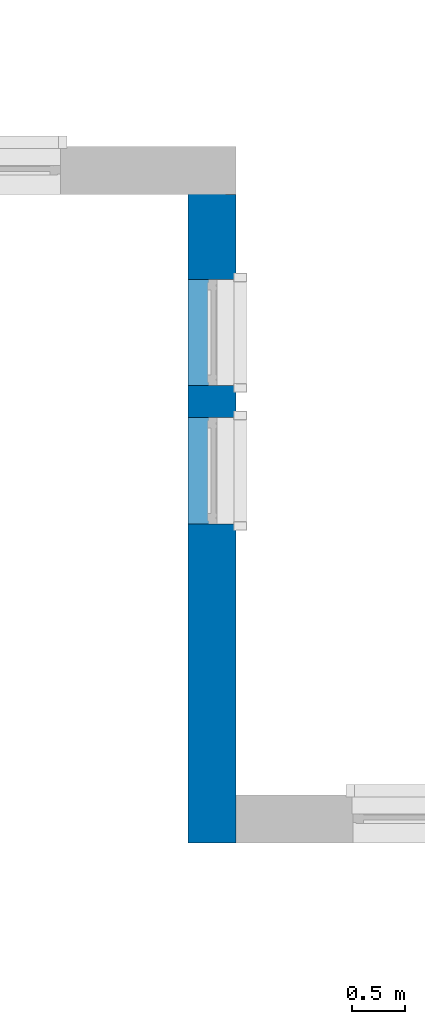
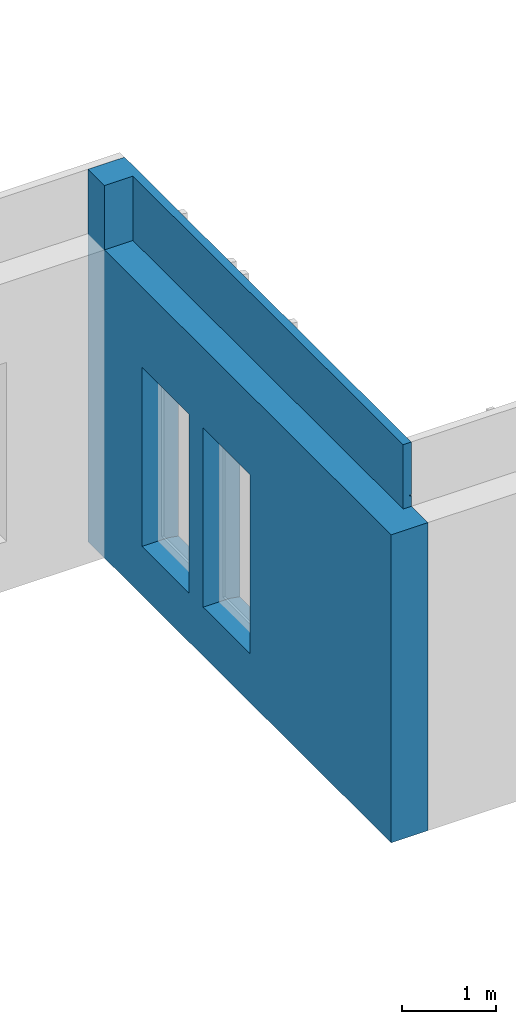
# One storey, part 14 of 33: 1 wall, 4 openings.
"""IFC2X3 building model written with IfcOpenShell, lengths in millimetres."""

from ifc_helpers import new_model, entity, si_unit, converted_unit, derived_unit, direction, frame, frame_2d, origin, place, context, subcontext, project, spatial, polyline, rectangle, extrude, clip, bounded_halfspace, faceted_brep, material, layer, layer_set, layer_usage, type_object, element, save


model = new_model("IFC2X3")

# Units and contexts
model_context = context("Model", 3, precision=0.01, world=origin(), true_north=direction((6.12303176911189e-17, 1.0)))
body_context = subcontext(model_context, "Body", "Model", "MODEL_VIEW")
ifc_project = project(units=[si_unit("LENGTHUNIT", "METRE", prefix="MILLI"), si_unit("AREAUNIT", "SQUARE_METRE"), si_unit("VOLUMEUNIT", "CUBIC_METRE"), converted_unit("PLANEANGLEUNIT", "DEGREE", entity("IfcRatioMeasure", 0.0174532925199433), si_unit("PLANEANGLEUNIT", "RADIAN"), dimensions=[0, 0, 0, 0, 0, 0, 0]), si_unit("MASSUNIT", "GRAM", prefix="KILO"), derived_unit("MASSDENSITYUNIT", [(si_unit("MASSUNIT", "GRAM", prefix="KILO"), 1), (si_unit("LENGTHUNIT", "METRE"), -3)]), si_unit("TIMEUNIT", "SECOND"), si_unit("FREQUENCYUNIT", "HERTZ"), si_unit("THERMODYNAMICTEMPERATUREUNIT", "DEGREE_CELSIUS"), derived_unit("THERMALTRANSMITTANCEUNIT", [(si_unit("MASSUNIT", "GRAM", prefix="KILO"), 1), (si_unit("THERMODYNAMICTEMPERATUREUNIT", "KELVIN"), -1), (si_unit("TIMEUNIT", "SECOND"), -3)]), derived_unit("VOLUMETRICFLOWRATEUNIT", [(si_unit("LENGTHUNIT", "METRE"), 3), (si_unit("TIMEUNIT", "SECOND"), -1)]), si_unit("ELECTRICCURRENTUNIT", "AMPERE"), si_unit("ELECTRICVOLTAGEUNIT", "VOLT"), si_unit("POWERUNIT", "WATT"), si_unit("FORCEUNIT", "NEWTON", prefix="KILO"), si_unit("ILLUMINANCEUNIT", "LUX"), si_unit("LUMINOUSFLUXUNIT", "LUMEN"), si_unit("LUMINOUSINTENSITYUNIT", "CANDELA"), derived_unit("USERDEFINED", [(si_unit("MASSUNIT", "GRAM", prefix="KILO"), -1), (si_unit("LENGTHUNIT", "METRE"), -2), (si_unit("TIMEUNIT", "SECOND"), 3), (si_unit("LUMINOUSFLUXUNIT", "LUMEN"), 1)]), derived_unit("LINEARVELOCITYUNIT", [(si_unit("LENGTHUNIT", "METRE"), 1), (si_unit("TIMEUNIT", "SECOND"), -1)]), si_unit("PRESSUREUNIT", "PASCAL"), derived_unit("USERDEFINED", [(si_unit("LENGTHUNIT", "METRE"), -2), (si_unit("MASSUNIT", "GRAM", prefix="KILO"), 1), (si_unit("TIMEUNIT", "SECOND"), -2)])], contexts=[model_context])

# Site, building, storey
site_placement = place(None, origin())
site = spatial("IfcSite", under=ifc_project, at=site_placement, Name="Default", CompositionType="ELEMENT")
building_placement = place(site_placement, origin())
building = spatial("IfcBuilding", under=site, at=building_placement, CompositionType="ELEMENT")
storey_placement = place(building_placement, frame((0.0, 0.0, 4000.0)))
storey = spatial("IfcBuildingStorey", under=building, at=storey_placement, Name="2. KORRUS", CompositionType="ELEMENT", Elevation=4000.0)

# Wall, openings
ifc_material_1 = material(Name="RECKLI 1 173 THUR by Polantis 2016-toon4")
ifc_layer_1 = layer(ifc_material_1, 100.0)
ifc_material_2 = material(Name="Soojusisolatsioon EPS")
ifc_layer_2 = layer(ifc_material_2, 200.0)
ifc_material_3 = material(Name="r/b")
ifc_layer_3 = layer(ifc_material_3, 150.0)
ifc_layer_set = layer_set([ifc_layer_1, ifc_layer_2, ifc_layer_3], Name="Basic Wall:VS-1_toon-a")
ifc_layer_usage = layer_usage(ifc_layer_set, "AXIS2", "NEGATIVE", 225.0)
wall_type = type_object("IfcWallType", Name="Basic Wall:VS-1_toon-a", PredefinedType="STANDARD", material=ifc_layer_set)
wall_placement = place(storey_placement, frame((9425.0, 27950.0, -135.0), z_axis=(0.0, 0.0, 1.0), x_axis=(0.0, -1.0, 0.0)))
wall = element("IfcWallStandardCase", 1, at=wall_placement, inside=storey, type_object=wall_type, material=ifc_layer_usage, Name="Basic Wall:VS-1_toon-a", ObjectType="Basic Wall:VS-1_toon-a", context=body_context, shape_type="Clipping", body=[
    clip(clip(extrude(rectangle(XDim=6449.94821928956, YDim=449.999999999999, at=frame_2d((3224.97410964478, -2.8421709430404e-13), x_axis=(-1.0, 0.0))), origin(), (0.0, 0.0, 1.0), 4835.0), bounded_halfspace(frame((350.0, -225.0, 4000.0), z_axis=(0.0, 0.0, 1.0), x_axis=(0.0, 1.0, 0.0)), False, frame((350.0, -225.0, 4000.0)), polyline([(0.0, 0.0), (6099.94821928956, 0.0), (6099.94821928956, 450.0), (5749.94821928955, 450.0), (5749.94821928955, 350.0), (0.0, 350.0), (0.0, 0.0)]))), bounded_halfspace(frame((0.0, 225.0, 4000.0), z_axis=(0.0, 0.0, -1.0), x_axis=(1.0, 0.0, 0.0)), False, frame((0.0, 225.0, 4000.0)), polyline([(0.0, 0.0), (0.0, -100.0), (350.0, -100.0), (350.0, 0.0), (0.0, 0.0)]))),
])
opening_1_placement = place(wall_placement, frame((28400.0, -9875.0, 4.0)))
element("IfcOpeningElement", 2, at=opening_1_placement, cuts=wall, Name="Basic Wall:VS-1_toon-a", ObjectType="Opening", context=body_context, shape_type="Brep", body=[
    faceted_brep([(-20.0, 11850.0, 16.0), (0.0, 11850.0, 16.0), (0.0, 11850.0, 0.0), (-20.0, 11850.0, 0.0), (-20.0, 4260.0, 16.0), (-20.0, 4260.0, 0.0), (0.0, 4260.0, 0.0), (0.0, 4260.0, 16.0)], [[[0, 1, 2, 3]], [[4, 5, 6, 7]], [[1, 0, 4, 7]], [[2, 1, 7, 6]], [[3, 2, 6, 5]], [[0, 3, 5, 4]]]),
    faceted_brep([(-28480.0, 20.0, 16.0), (-28480.0, 20.0, 0.0), (-28500.0, 0.0, 0.0), (-28500.0, 0.0, 16.0), (-23740.0, 20.0, 16.0), (-23740.0, 0.0, 16.0), (-23740.0, 0.0, 0.0), (-23740.0, 20.0, 0.0)], [[[0, 1, 2, 3]], [[4, 5, 6, 7]], [[1, 0, 4, 7]], [[2, 1, 7, 6]], [[3, 2, 6, 5]], [[0, 3, 5, 4]]]),
    faceted_brep([(-22380.0517807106, 10080.0, 16.0), (-22400.0517807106, 10100.0, 16.0), (-22400.0517807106, 10100.0, 0.0), (-22380.0517807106, 10080.0, 0.0), (-22380.0517807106, 15330.3475962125, 16.0), (-22380.0517807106, 15330.3475962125, 0.0), (-22400.0517807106, 15330.3475962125, 0.0), (-22400.0517807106, 15330.3475962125, 16.0)], [[[0, 1, 2, 3]], [[4, 5, 6, 7]], [[1, 0, 4, 7]], [[2, 1, 7, 6]], [[3, 2, 6, 5]], [[0, 3, 5, 4]]]),
    faceted_brep([(-28480.0, 20.0, 16.0), (-28500.0, 0.0, 16.0), (-28500.0, 0.0, 0.0), (-28480.0, 20.0, 0.0), (-28480.0, 4360.0, 16.0), (-28480.0, 4360.0, 0.0), (-28500.0, 4360.0, 0.0), (-28500.0, 4360.0, 16.0)], [[[0, 1, 2, 3]], [[4, 5, 6, 7]], [[1, 0, 4, 7]], [[2, 1, 7, 6]], [[3, 2, 6, 5]], [[0, 3, 5, 4]]]),
    faceted_brep([(-20.0, 40380.0, 16.0), (0.0, 40400.0, 16.0), (0.0, 40400.0, 0.0), (-20.0, 40380.0, 0.0), (-20.0, 35250.0, 16.0), (-20.0, 35250.0, 0.0), (0.0, 35250.0, 0.0), (0.0, 35250.0, 16.0)], [[[0, 1, 2, 3]], [[4, 5, 6, 7]], [[1, 0, 4, 7]], [[2, 1, 7, 6]], [[3, 2, 6, 5]], [[0, 3, 5, 4]]]),
    faceted_brep([(-22380.0517807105, 34420.1035702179, 16.0), (-22400.0517807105, 34420.1035702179, 16.0), (-22400.0517807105, 34420.1035702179, 0.0), (-22380.0517807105, 34420.1035702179, 0.0), (-22380.0517807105, 40380.0, 16.0), (-22380.0517807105, 40380.0, 0.0), (-22400.0517807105, 40400.0, 0.0), (-22400.0517807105, 40400.0, 16.0)], [[[0, 1, 2, 3]], [[4, 5, 6, 7]], [[1, 0, 4, 7]], [[2, 1, 7, 6]], [[3, 2, 6, 5]], [[0, 3, 5, 4]]]),
    faceted_brep([(-22380.0517807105, 29113.2161487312, 16.0), (-22400.0517807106, 29113.2161487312, 16.0), (-22400.0517807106, 29113.2161487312, 0.0), (-22380.0517807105, 29113.2161487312, 0.0), (-22380.0517807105, 34420.1035702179, 16.0), (-22380.0517807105, 34420.1035702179, 0.0), (-22400.0517807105, 34420.1035702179, 0.0), (-22400.0517807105, 34420.1035702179, 16.0)], [[[0, 1, 2, 3]], [[4, 5, 6, 7]], [[1, 0, 4, 7]], [[2, 1, 7, 6]], [[3, 2, 6, 5]], [[0, 3, 5, 4]]]),
    faceted_brep([(-28480.0, 10080.0, 16.0), (-28500.0, 10100.0, 16.0), (-28500.0, 10100.0, 0.0), (-28480.0, 10080.0, 0.0), (-22380.0517807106, 10080.0, 16.0), (-22380.0517807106, 10080.0, 0.0), (-22400.0517807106, 10100.0, 0.0), (-22400.0517807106, 10100.0, 16.0)], [[[0, 1, 2, 3]], [[4, 5, 6, 7]], [[1, 0, 4, 7]], [[2, 1, 7, 6]], [[3, 2, 6, 5]], [[0, 3, 5, 4]]]),
    faceted_brep([(-20.0, 4260.0, 16.0), (0.0, 4260.0, 16.0), (0.0, 4260.0, 0.0), (-20.0, 4260.0, 0.0), (-20.0, 0.0, 16.0), (-20.0, 0.0, 0.0), (0.0, 0.0, 0.0), (0.0, 0.0, 16.0)], [[[0, 1, 2, 3]], [[4, 5, 6, 7]], [[1, 0, 4, 7]], [[2, 1, 7, 6]], [[3, 2, 6, 5]], [[0, 3, 5, 4]]]),
    faceted_brep([(-4865.0, 40380.0, 16.0), (-4865.0, 40400.0, 16.0), (-4865.0, 40400.0, 0.0), (-4865.0, 40380.0, 0.0), (-20.0, 40380.0, 16.0), (-20.0, 40380.0, 0.0), (0.0, 40400.0, 0.0), (0.0, 40400.0, 16.0)], [[[0, 1, 2, 3]], [[4, 5, 6, 7]], [[1, 0, 4, 7]], [[2, 1, 7, 6]], [[3, 2, 6, 5]], [[0, 3, 5, 4]]]),
    faceted_brep([(-9093.33000000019, 40380.0, 16.0), (-9093.33000000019, 40400.0, 16.0), (-9093.33000000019, 40400.0, 0.0), (-9093.33000000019, 40380.0, 0.0), (-4865.0, 40380.0, 16.0), (-4865.0, 40380.0, 0.0), (-4865.0, 40400.0, 0.0), (-4865.0, 40400.0, 16.0)], [[[0, 1, 2, 3]], [[4, 5, 6, 7]], [[1, 0, 4, 7]], [[2, 1, 7, 6]], [[3, 2, 6, 5]], [[0, 3, 5, 4]]]),
    faceted_brep([(-13210.0, 40380.0, 16.0), (-13210.0, 40400.0, 16.0), (-13210.0, 40400.0, 0.0), (-13210.0, 40380.0, 0.0), (-9093.33000000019, 40380.0, 16.0), (-9093.33000000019, 40380.0, 0.0), (-9093.33000000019, 40400.0, 0.0), (-9093.33000000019, 40400.0, 16.0)], [[[0, 1, 2, 3]], [[4, 5, 6, 7]], [[1, 0, 4, 7]], [[2, 1, 7, 6]], [[3, 2, 6, 5]], [[0, 3, 5, 4]]]),
    faceted_brep([(-16240.0, 40380.0, 16.0), (-16240.0, 40400.0, 16.0), (-16240.0, 40400.0, 0.0), (-16240.0, 40380.0, 0.0), (-13210.0, 40380.0, 16.0), (-13210.0, 40380.0, 0.0), (-13210.0, 40400.0, 0.0), (-13210.0, 40400.0, 16.0)], [[[0, 1, 2, 3]], [[4, 5, 6, 7]], [[1, 0, 4, 7]], [[2, 1, 7, 6]], [[3, 2, 6, 5]], [[0, 3, 5, 4]]]),
    faceted_brep([(-22380.0517807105, 40380.0, 16.0), (-22400.0517807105, 40400.0, 16.0), (-22400.0517807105, 40400.0, 0.0), (-22380.0517807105, 40380.0, 0.0), (-16240.0, 40380.0, 16.0), (-16240.0, 40380.0, 0.0), (-16240.0, 40400.0, 0.0), (-16240.0, 40400.0, 16.0)], [[[0, 1, 2, 3]], [[4, 5, 6, 7]], [[1, 0, 4, 7]], [[2, 1, 7, 6]], [[3, 2, 6, 5]], [[0, 3, 5, 4]]]),
    faceted_brep([(-22380.0517807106, 22535.0, 16.0), (-22400.0517807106, 22535.0, 16.0), (-22400.0517807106, 22535.0, 0.0), (-22380.0517807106, 22535.0, 0.0), (-22380.0517807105, 29113.2161487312, 16.0), (-22380.0517807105, 29113.2161487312, 0.0), (-22400.0517807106, 29113.2161487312, 0.0), (-22400.0517807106, 29113.2161487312, 16.0)], [[[0, 1, 2, 3]], [[4, 5, 6, 7]], [[1, 0, 4, 7]], [[2, 1, 7, 6]], [[3, 2, 6, 5]], [[0, 3, 5, 4]]]),
    faceted_brep([(-22380.0517807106, 18703.3528910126, 16.0), (-22400.0517807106, 18703.3528910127, 16.0), (-22400.0517807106, 18703.3528910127, 0.0), (-22380.0517807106, 18703.3528910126, 0.0), (-22380.0517807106, 22535.0, 16.0), (-22380.0517807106, 22535.0, 0.0), (-22400.0517807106, 22535.0, 0.0), (-22400.0517807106, 22535.0, 16.0)], [[[0, 1, 2, 3]], [[4, 5, 6, 7]], [[1, 0, 4, 7]], [[2, 1, 7, 6]], [[3, 2, 6, 5]], [[0, 3, 5, 4]]]),
    faceted_brep([(-22380.0517807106, 15330.3475962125, 16.0), (-22400.0517807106, 15330.3475962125, 16.0), (-22400.0517807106, 15330.3475962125, 0.0), (-22380.0517807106, 15330.3475962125, 0.0), (-22380.0517807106, 18703.3528910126, 16.0), (-22380.0517807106, 18703.3528910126, 0.0), (-22400.0517807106, 18703.3528910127, 0.0), (-22400.0517807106, 18703.3528910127, 16.0)], [[[0, 1, 2, 3]], [[4, 5, 6, 7]], [[1, 0, 4, 7]], [[2, 1, 7, 6]], [[3, 2, 6, 5]], [[0, 3, 5, 4]]]),
    faceted_brep([(-28480.0, 4360.0, 16.0), (-28500.0, 4360.0, 16.0), (-28500.0, 4360.0, 0.0), (-28480.0, 4360.0, 0.0), (-28480.0, 10080.0, 16.0), (-28480.0, 10080.0, 0.0), (-28500.0, 10100.0, 0.0), (-28500.0, 10100.0, 16.0)], [[[0, 1, 2, 3]], [[4, 5, 6, 7]], [[1, 0, 4, 7]], [[2, 1, 7, 6]], [[3, 2, 6, 5]], [[0, 3, 5, 4]]]),
    faceted_brep([(-23740.0, 20.0, 16.0), (-23740.0, 20.0, 0.0), (-23740.0, 0.0, 0.0), (-23740.0, 0.0, 16.0), (-16890.0006972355, 20.0, 16.0), (-16890.0006972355, 0.0, 16.0), (-16890.0006972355, 0.0, 0.0), (-16890.0006972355, 20.0, 0.0)], [[[0, 1, 2, 3]], [[4, 5, 6, 7]], [[1, 0, 4, 7]], [[2, 1, 7, 6]], [[3, 2, 6, 5]], [[0, 3, 5, 4]]]),
    faceted_brep([(-16890.0006972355, 20.0, 16.0), (-16890.0006972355, 20.0, 0.0), (-16890.0006972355, 0.0, 0.0), (-16890.0006972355, 0.0, 16.0), (-13460.0, 20.0, 16.0), (-13460.0, 0.0, 16.0), (-13460.0, 0.0, 0.0), (-13460.0, 20.0, 0.0)], [[[0, 1, 2, 3]], [[4, 5, 6, 7]], [[1, 0, 4, 7]], [[2, 1, 7, 6]], [[3, 2, 6, 5]], [[0, 3, 5, 4]]]),
])
opening_2_placement = place(wall_placement, origin())
element("IfcOpeningElement", 3, at=opening_2_placement, cuts=wall, Name="Basic Wall:VS-1_toon-a", ObjectType="Recess", context=body_context, shape_type="SweptSolid", body=[
    extrude(rectangle(XDim=15.9999999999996, YDim=20.0, at=frame_2d((-3.37507799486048e-14, 5.40900657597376e-13), x_axis=(0.0, 1.0))), frame((28390.0, -5615.0, 4147.0), z_axis=(0.0, 1.0, 0.0), x_axis=(1.0, 0.0, 0.0)), (0.0, 0.0, 1.0), 7590.0),
    extrude(rectangle(XDim=15.9999999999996, YDim=4660.0, at=frame_2d((-2.27373675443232e-12, 5.40900657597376e-13), x_axis=(0.0, 1.0))), frame((2330.0, -9875.0, 4147.0), z_axis=(0.0, 1.0, 0.0), x_axis=(1.0, 0.0, 0.0)), (0.0, 0.0, 1.0), 20.0000000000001),
    extrude(rectangle(XDim=15.9999999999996, YDim=19.9999999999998, at=frame_2d((5.40900657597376e-13, -2.16626716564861e-12), x_axis=(1.0, 0.0))), frame((6009.94821928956, 225.0, 4147.0), z_axis=(0.0, 1.0, 0.0), x_axis=(0.0, 0.0, -1.0)), (0.0, 0.0, 1.0), 5230.3475962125),
    extrude(rectangle(XDim=15.9999999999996, YDim=19.9999999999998, at=frame_2d((5.40900657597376e-13, -2.16626716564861e-12), x_axis=(1.0, 0.0))), frame((-90.0, -9875.0, 4147.0), z_axis=(0.0, 1.0, 0.0), x_axis=(0.0, 0.0, -1.0)), (0.0, 0.0, 1.0), 4360.0),
    extrude(rectangle(XDim=15.9999999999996, YDim=20.0, at=frame_2d((-3.37507799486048e-14, -5.40900657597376e-13), x_axis=(0.0, 1.0))), frame((28390.0, 25375.0, 4147.0), z_axis=(0.0, 1.0, 0.0), x_axis=(1.0, 0.0, 0.0)), (0.0, 0.0, 1.0), 5050.0),
    extrude(rectangle(XDim=15.9999999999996, YDim=19.9999999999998, at=frame_2d((5.40900657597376e-13, -2.16626716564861e-12), x_axis=(1.0, 0.0))), frame((6009.9482192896, 24545.1035702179, 4147.0), z_axis=(0.0, 1.0, 0.0), x_axis=(0.0, 0.0, -1.0)), (0.0, 0.0, 1.0), 5979.89642978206),
    extrude(rectangle(XDim=15.9999999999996, YDim=19.9999999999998, at=frame_2d((5.40900657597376e-13, -2.16626716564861e-12), x_axis=(1.0, 0.0))), frame((6009.94821928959, 19238.2161487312, 4147.0), z_axis=(0.0, 1.0, 0.0), x_axis=(0.0, 0.0, -1.0)), (0.0, 0.0, 1.0), 5306.88742148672),
    extrude(rectangle(XDim=15.9999999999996, YDim=6099.94821928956, at=frame_2d((0.0, 0.0), x_axis=(0.0, 1.0))), frame((3049.97410964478, 205.0, 4147.0), z_axis=(0.0, 1.0, 0.0), x_axis=(1.0, 0.0, 0.0)), (0.0, 0.0, 1.0), 19.9999999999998),
    extrude(rectangle(XDim=15.9999999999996, YDim=20.0, at=frame_2d((-3.37507799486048e-14, 5.40900657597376e-13), x_axis=(0.0, 1.0))), frame((28390.0, -9775.0, 4147.0), z_axis=(0.0, 1.0, 0.0), x_axis=(1.0, 0.0, 0.0)), (0.0, 0.0, 1.0), 4160.00000000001),
    extrude(rectangle(XDim=15.9999999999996, YDim=4865.0, at=frame_2d((0.0, 5.40900657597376e-13), x_axis=(0.0, 1.0))), frame((25967.5000000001, 30505.0, 4147.0), z_axis=(0.0, 1.0, 0.0), x_axis=(1.0, 0.0, 0.0)), (0.0, 0.0, 1.0), 20.0000000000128),
    extrude(rectangle(XDim=15.9999999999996, YDim=4228.33000000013, at=frame_2d((0.0, 0.0), x_axis=(0.0, 1.0))), frame((21420.835, 30505.0, 4147.0), z_axis=(0.0, 1.0, 0.0), x_axis=(1.0, 0.0, 0.0)), (0.0, 0.0, 1.0), 20.0000000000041),
    extrude(rectangle(XDim=15.9999999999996, YDim=4236.66999997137, at=frame_2d((1.13686837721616e-12, 0.0), x_axis=(0.0, 1.0))), frame((17188.3350000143, 30505.0, 4147.0), z_axis=(0.0, 1.0, 0.0), x_axis=(1.0, 0.0, 0.0)), (0.0, 0.0, 1.0), 19.9999999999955),
    extrude(rectangle(XDim=15.9999999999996, YDim=2910.00000002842, at=frame_2d((2.1600499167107e-12, 5.40900657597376e-13), x_axis=(0.0, 1.0))), frame((13615.0, 30505.0, 4147.0), z_axis=(0.0, 1.0, 0.0), x_axis=(1.0, 0.0, 0.0)), (0.0, 0.0, 1.0), 20.0000000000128),
    extrude(rectangle(XDim=15.9999999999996, YDim=6060.05178071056, at=frame_2d((0.0, 0.0), x_axis=(0.0, 1.0))), frame((9129.97410964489, 30505.0, 4147.0), z_axis=(0.0, 1.0, 0.0), x_axis=(1.0, 0.0, 0.0)), (0.0, 0.0, 1.0), 19.9999999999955),
    extrude(rectangle(XDim=15.9999999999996, YDim=19.9999999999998, at=frame_2d((5.40900657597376e-13, -2.16626716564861e-12), x_axis=(1.0, 0.0))), frame((6009.94821928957, 8828.35289101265, 4147.0), z_axis=(0.0, 1.0, 0.0), x_axis=(0.0, 0.0, -1.0)), (0.0, 0.0, 1.0), 3831.64710898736),
    extrude(rectangle(XDim=15.9999999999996, YDim=19.9999999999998, at=frame_2d((5.40900657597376e-13, -2.16626716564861e-12), x_axis=(1.0, 0.0))), frame((6009.94821928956, 5455.3475962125, 4147.0), z_axis=(0.0, 1.0, 0.0), x_axis=(0.0, 0.0, -1.0)), (0.0, 0.0, 1.0), 3373.00529480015),
    extrude(rectangle(XDim=15.9999999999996, YDim=19.9999999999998, at=frame_2d((5.40900657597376e-13, 2.16626716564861e-12), x_axis=(1.0, 0.0))), frame((-90.0, -5515.0, 4147.0), z_axis=(0.0, 1.0, 0.0), x_axis=(0.0, 0.0, -1.0)), (0.0, 0.0, 1.0), 5739.99999999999),
    extrude(rectangle(XDim=15.9999999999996, YDim=6849.99930276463, at=frame_2d((1.13686837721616e-12, 5.40900657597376e-13), x_axis=(0.0, 1.0))), frame((8084.99965138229, -9875.0, 4147.0), z_axis=(0.0, 1.0, 0.0), x_axis=(1.0, 0.0, 0.0)), (0.0, 0.0, 1.0), 20.0),
    extrude(rectangle(XDim=15.9999999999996, YDim=3430.00069726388, at=frame_2d((1.02318153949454e-12, 5.40900657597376e-13), x_axis=(0.0, 1.0))), frame((13224.9996513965, -9875.0, 4147.0), z_axis=(0.0, 1.0, 0.0), x_axis=(1.0, 0.0, 0.0)), (0.0, 0.0, 1.0), 20.0000000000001),
    extrude(rectangle(XDim=15.9999999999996, YDim=19.9999999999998, at=frame_2d((5.40900657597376e-13, -2.16626716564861e-12), x_axis=(1.0, 0.0))), frame((6009.94821928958, 12660.0, 4147.0), z_axis=(0.0, 1.0, 0.0), x_axis=(0.0, 0.0, -1.0)), (0.0, 0.0, 1.0), 6578.21614873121),
    extrude(rectangle(XDim=15.9999999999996, YDim=20.0, at=frame_2d((-3.37507799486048e-14, 5.40900657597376e-13), x_axis=(0.0, 1.0))), frame((28390.0, 1975.0, 4147.0), z_axis=(0.0, 1.0, 0.0), x_axis=(1.0, 0.0, 0.0)), (0.0, 0.0, 1.0), 4110.00000000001),
    extrude(rectangle(XDim=15.9999999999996, YDim=20.0, at=frame_2d((-3.37507799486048e-14, 5.40900657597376e-13), x_axis=(0.0, 1.0))), frame((28390.0, 6085.0, 4147.0), z_axis=(0.0, 1.0, 0.0), x_axis=(1.0, 0.0, 0.0)), (0.0, 0.0, 1.0), 4600.0),
    extrude(rectangle(XDim=15.9999999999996, YDim=20.0, at=frame_2d((3.37507799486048e-14, 5.40900657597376e-13), x_axis=(0.0, 1.0))), frame((28390.0, 10685.0, 4147.0), z_axis=(0.0, 1.0, 0.0), x_axis=(1.0, 0.0, 0.0)), (0.0, 0.0, 1.0), 4600.0),
    extrude(rectangle(XDim=15.9999999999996, YDim=20.0, at=frame_2d((3.37507799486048e-14, 5.40900657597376e-13), x_axis=(0.0, 1.0))), frame((28390.0, 15285.0, 4147.0), z_axis=(0.0, 1.0, 0.0), x_axis=(1.0, 0.0, 0.0)), (0.0, 0.0, 1.0), 5299.99999999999),
    extrude(rectangle(XDim=15.9999999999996, YDim=20.0, at=frame_2d((-3.37507799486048e-14, 5.40900657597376e-13), x_axis=(0.0, 1.0))), frame((28390.0, 20585.0, 4147.0), z_axis=(0.0, 1.0, 0.0), x_axis=(1.0, 0.0, 0.0)), (0.0, 0.0, 1.0), 4790.0),
    extrude(rectangle(XDim=15.9999999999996, YDim=4724.85920481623, at=frame_2d((6.82121026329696e-13, 5.40900657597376e-13), x_axis=(0.0, 1.0))), frame((17302.4296024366, -9875.0, 4147.0), z_axis=(0.0, 1.0, 0.0), x_axis=(1.0, 0.0, 0.0)), (0.0, 0.0, 1.0), 20.0000000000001),
    extrude(rectangle(XDim=15.9999999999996, YDim=8735.1407951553, at=frame_2d((0.0, 5.40900657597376e-13), x_axis=(0.0, 1.0))), frame((24032.4296024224, -9875.0, 4147.0), z_axis=(0.0, 1.0, 0.0), x_axis=(1.0, 0.0, 0.0)), (0.0, 0.0, 1.0), 20.0),
])
opening_3_placement = place(wall_placement, frame((2149.99836987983, -225.0, 613.05700973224), z_axis=(0.0, 0.0, 1.0), x_axis=(0.0, 1.0, 0.0)))
element("IfcOpeningElement", 4, at=opening_3_placement, cuts=wall, Name="Basic Wall:VS-1_toon-a", ObjectType="Opening", context=body_context, shape_type="Brep", body=[
    faceted_brep([(0.0, 1000.0, 2346.94299026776), (0.0, 1000.0, 21.9429902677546), (0.0, 0.0, 21.9429902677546), (0.0, 0.0, 2346.94299026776), (450.0, 0.0, 2721.94299026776), (450.0, 0.0, 0.0), (450.0, 1000.0, 0.0), (450.0, 1000.0, 2721.94299026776), (250.0, 1000.0, 2346.94299026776), (250.0, 1000.0, 2721.94299026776), (325.555118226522, 1000.0, 21.9429902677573), (325.555118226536, 0.0, 21.9429902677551), (250.0, 0.0, 2721.94299026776), (250.0, 0.0, 2346.94299026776)], [[[0, 1, 2, 3]], [[4, 5, 6, 7]], [[0, 8, 9, 7, 6, 10, 1]], [[1, 10, 11, 2]], [[2, 11, 5, 4, 12, 13, 3]], [[3, 13, 8, 0]], [[9, 8, 13, 12]], [[12, 4, 7, 9]], [[6, 5, 11, 10]]]),
])
opening_4_placement = place(wall_placement, frame((3449.99836987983, -225.0, 613.05700973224), z_axis=(0.0, 0.0, 1.0), x_axis=(0.0, 1.0, 0.0)))
element("IfcOpeningElement", 5, at=opening_4_placement, cuts=wall, Name="Basic Wall:VS-1_toon-a", ObjectType="Opening", context=body_context, shape_type="Brep", body=[
    faceted_brep([(0.0, 1000.0, 2346.94299026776), (0.0, 1000.0, 21.9429902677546), (0.0, 0.0, 21.9429902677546), (0.0, 0.0, 2346.94299026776), (450.0, 0.0, 2721.94299026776), (450.0, 0.0, 0.0), (450.0, 1000.0, 0.0), (450.0, 1000.0, 2721.94299026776), (250.0, 1000.0, 2346.94299026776), (250.0, 1000.0, 2721.94299026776), (325.555118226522, 1000.0, 21.9429902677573), (325.555118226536, 0.0, 21.9429902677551), (250.0, 0.0, 2721.94299026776), (250.0, 0.0, 2346.94299026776)], [[[0, 1, 2, 3]], [[4, 5, 6, 7]], [[0, 8, 9, 7, 6, 10, 1]], [[1, 10, 11, 2]], [[2, 11, 5, 4, 12, 13, 3]], [[3, 13, 8, 0]], [[9, 8, 13, 12]], [[12, 4, 7, 9]], [[6, 5, 11, 10]]]),
])

save(model, "model.ifc")
